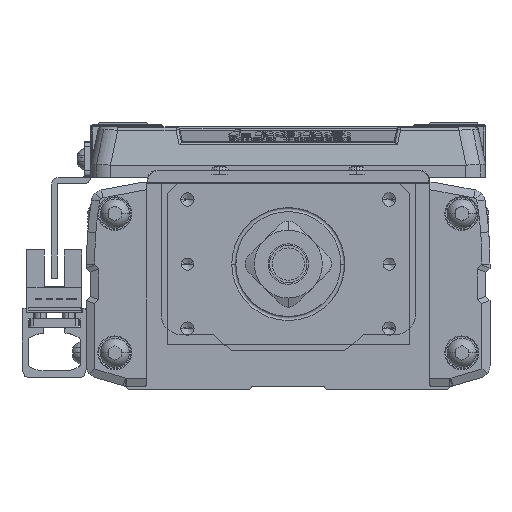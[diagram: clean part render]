
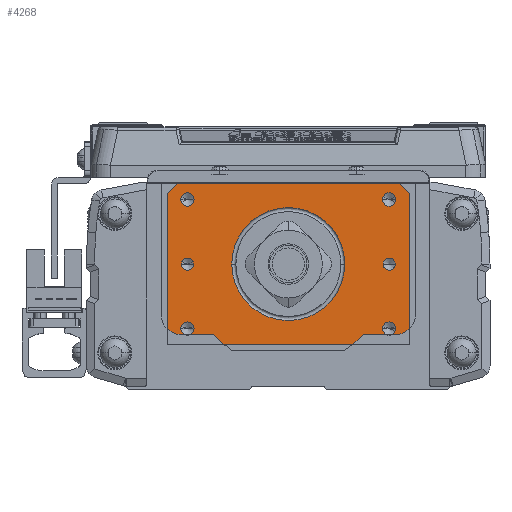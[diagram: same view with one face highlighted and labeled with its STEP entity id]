
A CAD part, left-side view. The second image highlights one B-rep face of the part: STEP entity #4268.
In plain terms, the highlighted planar face has unit normal (-1, 0, 0).
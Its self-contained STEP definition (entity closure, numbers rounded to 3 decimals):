
#4268=ADVANCED_FACE('',(#10091,#10092,#10093,#10094,#10095,#10096,#10097,#10098),#10099,.T.);
#10091=FACE_BOUND('',#18111,.T.);
#10092=FACE_BOUND('',#18112,.T.);
#10093=FACE_BOUND('',#18113,.T.);
#10094=FACE_BOUND('',#18114,.T.);
#10095=FACE_BOUND('',#18115,.T.);
#10096=FACE_BOUND('',#18116,.T.);
#10097=FACE_BOUND('',#18117,.T.);
#10098=FACE_OUTER_BOUND('',#18118,.T.);
#10099=PLANE('',#18119);
#18111=EDGE_LOOP('',(#29945,#29946));
#18112=EDGE_LOOP('',(#29947,#29948));
#18113=EDGE_LOOP('',(#29949,#29950));
#18114=EDGE_LOOP('',(#29951,#29952));
#18115=EDGE_LOOP('',(#29953,#29954));
#18116=EDGE_LOOP('',(#29955,#29956));
#18117=EDGE_LOOP('',(#29957,#29958,#29959));
#18118=EDGE_LOOP('',(#29960,#29961,#29962,#29963,#29964,#29965));
#18119=AXIS2_PLACEMENT_3D('',#29966,#29967,#29968);
#29945=ORIENTED_EDGE('',*,*,#49386,.T.);
#29946=ORIENTED_EDGE('',*,*,#49387,.T.);
#29947=ORIENTED_EDGE('',*,*,#49388,.T.);
#29948=ORIENTED_EDGE('',*,*,#49389,.T.);
#29949=ORIENTED_EDGE('',*,*,#49390,.T.);
#29950=ORIENTED_EDGE('',*,*,#49391,.T.);
#29951=ORIENTED_EDGE('',*,*,#46805,.T.);
#29952=ORIENTED_EDGE('',*,*,#47911,.T.);
#29953=ORIENTED_EDGE('',*,*,#49392,.T.);
#29954=ORIENTED_EDGE('',*,*,#48707,.T.);
#29955=ORIENTED_EDGE('',*,*,#47268,.T.);
#29956=ORIENTED_EDGE('',*,*,#49393,.T.);
#29957=ORIENTED_EDGE('',*,*,#46292,.T.);
#29958=ORIENTED_EDGE('',*,*,#49394,.T.);
#29959=ORIENTED_EDGE('',*,*,#46293,.T.);
#29960=ORIENTED_EDGE('',*,*,#46250,.F.);
#29961=ORIENTED_EDGE('',*,*,#49395,.F.);
#29962=ORIENTED_EDGE('',*,*,#46821,.T.);
#29963=ORIENTED_EDGE('',*,*,#46456,.T.);
#29964=ORIENTED_EDGE('',*,*,#49112,.F.);
#29965=ORIENTED_EDGE('',*,*,#49396,.T.);
#29966=CARTESIAN_POINT('',(-580.,0.,-20.));
#29967=DIRECTION('',(-1.0,0.,0.));
#29968=DIRECTION('',(0.,-1.0,0.));
#46250=EDGE_CURVE('',#55329,#55331,#55332,.T.);
#46292=EDGE_CURVE('',#55403,#55401,#55404,.T.);
#46293=EDGE_CURVE('',#55405,#55403,#55406,.T.);
#46456=EDGE_CURVE('',#55690,#55687,#55691,.T.);
#46805=EDGE_CURVE('',#56303,#56308,#56310,.T.);
#46821=EDGE_CURVE('',#56337,#55690,#56338,.T.);
#47268=EDGE_CURVE('',#57092,#57097,#57099,.T.);
#47911=EDGE_CURVE('',#56308,#56303,#58176,.T.);
#48707=EDGE_CURVE('',#59487,#59485,#59488,.T.);
#49112=EDGE_CURVE('',#60125,#55687,#60126,.T.);
#49386=EDGE_CURVE('',#60561,#60562,#60563,.T.);
#49387=EDGE_CURVE('',#60562,#60561,#60564,.T.);
#49388=EDGE_CURVE('',#60565,#60566,#60567,.T.);
#49389=EDGE_CURVE('',#60566,#60565,#60568,.T.);
#49390=EDGE_CURVE('',#60569,#60570,#60571,.T.);
#49391=EDGE_CURVE('',#60570,#60569,#60572,.T.);
#49392=EDGE_CURVE('',#59485,#59487,#60573,.T.);
#49393=EDGE_CURVE('',#57097,#57092,#60574,.T.);
#49394=EDGE_CURVE('',#55401,#55405,#60575,.T.);
#49395=EDGE_CURVE('',#56337,#55329,#60576,.T.);
#49396=EDGE_CURVE('',#60125,#55331,#60577,.T.);
#55329=VERTEX_POINT('',#68289);
#55331=VERTEX_POINT('',#68292);
#55332=LINE('',#68293,#68294);
#55401=VERTEX_POINT('',#68385);
#55403=VERTEX_POINT('',#68387);
#55404=CIRCLE('',#68388,14.0);
#55405=VERTEX_POINT('',#68389);
#55406=CIRCLE('',#68390,14.0);
#55687=VERTEX_POINT('',#68759);
#55690=VERTEX_POINT('',#68763);
#55691=LINE('',#68764,#68765);
#56303=VERTEX_POINT('',#69618);
#56308=VERTEX_POINT('',#69624);
#56310=CIRCLE('',#69627,1.65);
#56337=VERTEX_POINT('',#69664);
#56338=LINE('',#69665,#69666);
#57092=VERTEX_POINT('',#70679);
#57097=VERTEX_POINT('',#70685);
#57099=CIRCLE('',#70688,1.65);
#58176=CIRCLE('',#72082,1.65);
#59485=VERTEX_POINT('',#73884);
#59487=VERTEX_POINT('',#73887);
#59488=CIRCLE('',#73888,1.65);
#60125=VERTEX_POINT('',#74817);
#60126=LINE('',#74818,#74819);
#60561=VERTEX_POINT('',#75470);
#60562=VERTEX_POINT('',#75471);
#60563=CIRCLE('',#75472,1.5);
#60564=CIRCLE('',#75473,1.5);
#60565=VERTEX_POINT('',#75474);
#60566=VERTEX_POINT('',#75475);
#60567=CIRCLE('',#75476,1.5);
#60568=CIRCLE('',#75477,1.5);
#60569=VERTEX_POINT('',#75478);
#60570=VERTEX_POINT('',#75479);
#60571=CIRCLE('',#75480,1.65);
#60572=CIRCLE('',#75481,1.65);
#60573=CIRCLE('',#75482,1.65);
#60574=CIRCLE('',#75483,1.65);
#60575=CIRCLE('',#75484,14.0);
#60576=LINE('',#75485,#75486);
#60577=LINE('',#75487,#75488);
#68289=CARTESIAN_POINT('',(-580.,30.,17.5));
#68292=CARTESIAN_POINT('',(-580.,27.5,20.));
#68293=CARTESIAN_POINT('',(-580.,31.25,16.25));
#68294=VECTOR('',#85601,10.);
#68385=CARTESIAN_POINT('',(-580.,14.,0.));
#68387=CARTESIAN_POINT('',(-580.,0.,-14.));
#68388=AXIS2_PLACEMENT_3D('',#85659,#85660,#85661);
#68389=CARTESIAN_POINT('',(-580.,-14.,0.));
#68390=AXIS2_PLACEMENT_3D('',#85662,#85663,#85664);
#68759=CARTESIAN_POINT('',(-580.,-30.,17.5));
#68763=CARTESIAN_POINT('',(-580.,-30.,-20.));
#68764=CARTESIAN_POINT('',(-580.,-30.,-20.));
#68765=VECTOR('',#85898,10.0);
#69618=CARTESIAN_POINT('',(-580.,26.65,-16.));
#69624=CARTESIAN_POINT('',(-580.,23.35,-16.));
#69627=AXIS2_PLACEMENT_3D('',#86368,#86369,#86370);
#69664=CARTESIAN_POINT('',(-580.,30.,-20.));
#69665=CARTESIAN_POINT('',(-580.,30.,-20.));
#69666=VECTOR('',#86384,10.0);
#70679=CARTESIAN_POINT('',(-580.,-26.65,16.));
#70685=CARTESIAN_POINT('',(-580.,-23.35,16.));
#70688=AXIS2_PLACEMENT_3D('',#86993,#86994,#86995);
#72082=AXIS2_PLACEMENT_3D('',#87898,#87899,#87900);
#73884=CARTESIAN_POINT('',(-580.,26.65,16.));
#73887=CARTESIAN_POINT('',(-580.,23.35,16.));
#73888=AXIS2_PLACEMENT_3D('',#88951,#88952,#88953);
#74817=CARTESIAN_POINT('',(-580.,-27.5,20.));
#74818=CARTESIAN_POINT('',(-580.,-31.25,16.25));
#74819=VECTOR('',#89477,10.);
#75470=CARTESIAN_POINT('',(-580.,-26.5,0.));
#75471=CARTESIAN_POINT('',(-580.,-23.5,0.));
#75472=AXIS2_PLACEMENT_3D('',#89864,#89865,#89866);
#75473=AXIS2_PLACEMENT_3D('',#89867,#89868,#89869);
#75474=CARTESIAN_POINT('',(-580.,26.5,0.));
#75475=CARTESIAN_POINT('',(-580.,23.5,0.));
#75476=AXIS2_PLACEMENT_3D('',#89870,#89871,#89872);
#75477=AXIS2_PLACEMENT_3D('',#89873,#89874,#89875);
#75478=CARTESIAN_POINT('',(-580.,-26.65,-16.));
#75479=CARTESIAN_POINT('',(-580.,-23.35,-16.));
#75480=AXIS2_PLACEMENT_3D('',#89876,#89877,#89878);
#75481=AXIS2_PLACEMENT_3D('',#89879,#89880,#89881);
#75482=AXIS2_PLACEMENT_3D('',#89882,#89883,#89884);
#75483=AXIS2_PLACEMENT_3D('',#89885,#89886,#89887);
#75484=AXIS2_PLACEMENT_3D('',#89888,#89889,#89890);
#75485=CARTESIAN_POINT('',(-580.,30.,-20.));
#75486=VECTOR('',#89891,10.0);
#75487=CARTESIAN_POINT('',(-580.,30.,20.));
#75488=VECTOR('',#89892,10.0);
#85601=DIRECTION('',(0.,-0.707,0.707));
#85659=CARTESIAN_POINT('',(-580.,0.,0.));
#85660=DIRECTION('',(1.0,0.,0.));
#85661=DIRECTION('',(0.,0.,1.0));
#85662=CARTESIAN_POINT('',(-580.,0.,0.));
#85663=DIRECTION('',(1.0,0.,0.));
#85664=DIRECTION('',(0.,0.,1.0));
#85898=DIRECTION('',(0.,0.,1.0));
#86368=CARTESIAN_POINT('',(-580.,25.,-16.));
#86369=DIRECTION('',(1.0,0.,0.));
#86370=DIRECTION('',(0.,1.0,0.));
#86384=DIRECTION('',(0.,-1.0,0.));
#86993=CARTESIAN_POINT('',(-580.,-25.,16.));
#86994=DIRECTION('',(1.0,0.,0.));
#86995=DIRECTION('',(0.,-1.0,0.));
#87898=CARTESIAN_POINT('',(-580.,25.,-16.));
#87899=DIRECTION('',(1.0,0.,0.));
#87900=DIRECTION('',(0.,1.0,0.));
#88951=CARTESIAN_POINT('',(-580.,25.,16.));
#88952=DIRECTION('',(1.0,0.,0.));
#88953=DIRECTION('',(0.,1.0,0.));
#89477=DIRECTION('',(0.0,-0.707,-0.707));
#89864=CARTESIAN_POINT('',(-580.,-25.,0.));
#89865=DIRECTION('',(1.0,0.,0.));
#89866=DIRECTION('',(0.,-1.0,0.));
#89867=CARTESIAN_POINT('',(-580.,-25.,0.));
#89868=DIRECTION('',(1.0,0.,0.));
#89869=DIRECTION('',(0.,-1.0,0.));
#89870=CARTESIAN_POINT('',(-580.,25.,0.));
#89871=DIRECTION('',(1.0,0.,0.));
#89872=DIRECTION('',(0.,1.0,0.));
#89873=CARTESIAN_POINT('',(-580.,25.,0.));
#89874=DIRECTION('',(1.0,0.,0.));
#89875=DIRECTION('',(0.,1.0,0.));
#89876=CARTESIAN_POINT('',(-580.,-25.,-16.));
#89877=DIRECTION('',(1.0,0.,0.));
#89878=DIRECTION('',(0.,-1.0,0.));
#89879=CARTESIAN_POINT('',(-580.,-25.,-16.));
#89880=DIRECTION('',(1.0,0.,0.));
#89881=DIRECTION('',(0.,-1.0,0.));
#89882=CARTESIAN_POINT('',(-580.,25.,16.));
#89883=DIRECTION('',(1.0,0.,0.));
#89884=DIRECTION('',(0.,1.0,0.));
#89885=CARTESIAN_POINT('',(-580.,-25.,16.));
#89886=DIRECTION('',(1.0,0.,0.));
#89887=DIRECTION('',(0.,-1.0,0.));
#89888=CARTESIAN_POINT('',(-580.,0.,0.));
#89889=DIRECTION('',(1.0,0.,0.));
#89890=DIRECTION('',(0.,0.,1.0));
#89891=DIRECTION('',(0.,0.,1.0));
#89892=DIRECTION('',(0.,1.0,0.));
